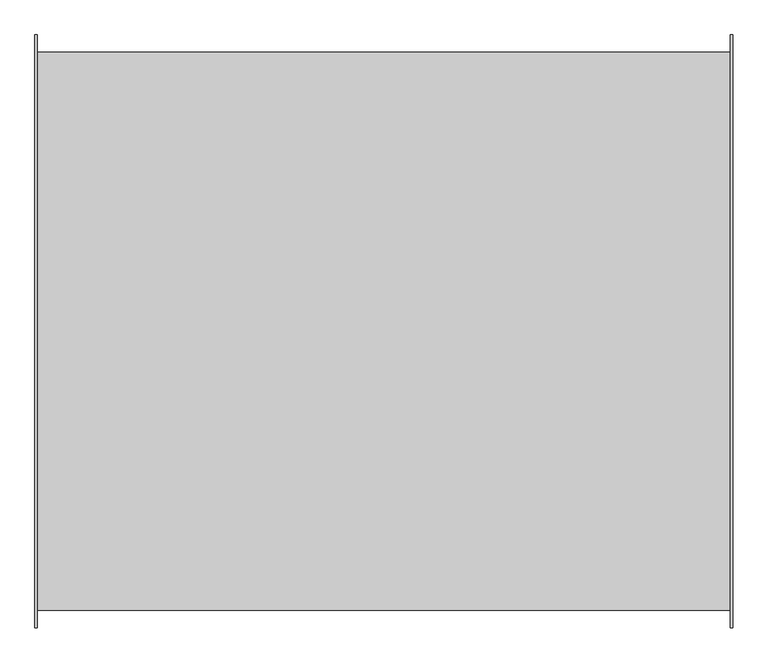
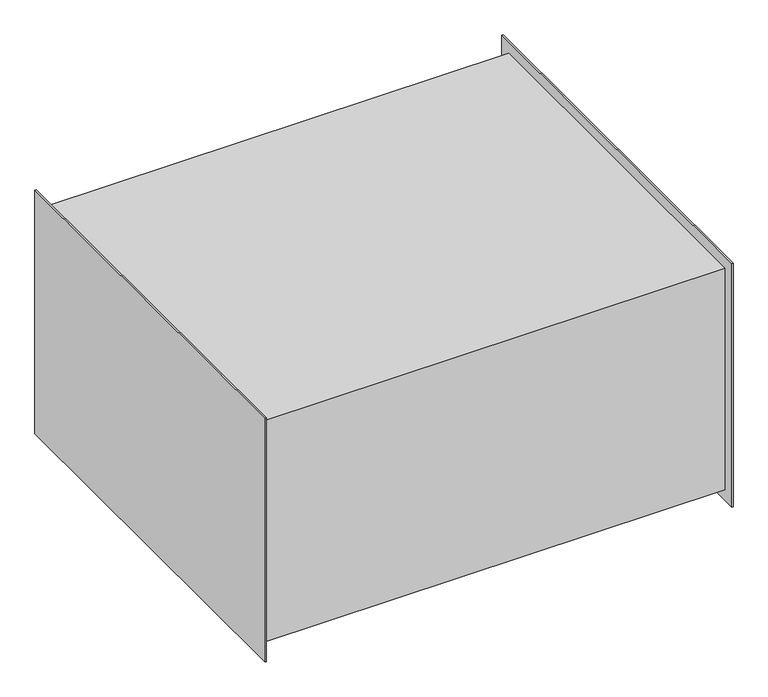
"""IFC4 building model written with IfcOpenShell, lengths in millimetres: damper geometry, Шумоглушитель_Прямоугольный_ГП : ГП (L=1000)."""

from ifc_helpers import new_model, si_unit, origin, place, context, project, spatial, faceted_brep, source, transform, mapped, element, save


def damper_7de5ede2(model_context):
    return source(origin(), model_context, "Body", "Brep", [
        faceted_brep([(500.0, -425.0, 275.0), (500.0, -425.0, -275.0), (500.0, 425.0, -275.0), (500.0, 425.0, 275.0), (-500.0, -425.0, 275.0), (-500.0, 425.0, 275.0), (-500.0, 425.0, -275.0), (-500.0, -425.0, -275.0), (497.0, -425.0, 275.0), (497.0, -425.0, -275.0), (-497.0, -425.0, -275.0), (-497.0, -425.0, 275.0), (497.0, 425.0, -275.0), (-497.0, 425.0, -275.0), (497.0, 425.0, 275.0), (-497.0, 425.0, 275.0), (497.0, -400.0, 250.0), (497.0, -400.0, -250.0), (497.0, 400.0, -250.0), (497.0, 400.0, 250.0), (-497.0, -400.0, 250.0), (-497.0, 400.0, 250.0), (-497.0, 400.0, -250.0), (-497.0, -400.0, -250.0)], [[[0, 1, 2, 3]], [[4, 5, 6, 7]], [[1, 0, 8, 9]], [[4, 7, 10, 11]], [[2, 1, 9, 12]], [[7, 6, 13, 10]], [[3, 2, 12, 14]], [[6, 5, 15, 13]], [[0, 3, 14, 8]], [[5, 4, 11, 15]], [[9, 8, 14, 12], [16, 17, 18, 19]], [[11, 10, 13, 15], [20, 21, 22, 23]], [[16, 19, 21, 20]], [[19, 18, 22, 21]], [[18, 17, 23, 22]], [[17, 16, 20, 23]]]),
    ])


if __name__ == "__main__":
    model = new_model("IFC4")
    model_context = context("Model", 3, world=origin())
    ifc_project = project(units=[si_unit("LENGTHUNIT", "METRE", prefix="MILLI")], contexts=[model_context])
    site = spatial("IfcSite", under=ifc_project)
    building = spatial("IfcBuilding", under=site)
    placement = place(None, origin())
    damper_shape = damper_7de5ede2(model_context)
    element("IfcDamper", 1, ObjectType="Шумоглушитель_Прямоугольный_ГП : ГП (L=1000)", at=placement, inside=building, context=model_context, shape_type="MappedRepresentation", body=[
        mapped(damper_shape, transform((0.0, 0.0, 0.0), x_axis=(1.0, 0.0, 0.0), y_axis=(0.0, 1.0, 0.0), z_axis=(0.0, 0.0, 1.0))),
    ])
    save(model, "model.ifc")
